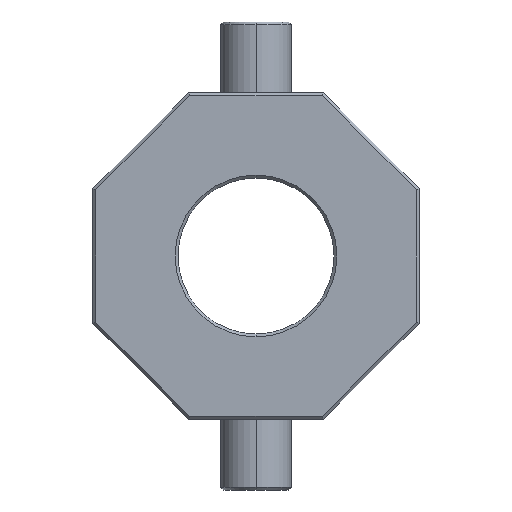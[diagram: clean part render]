
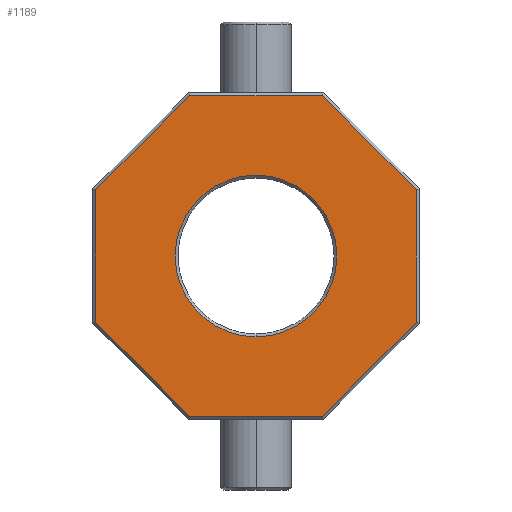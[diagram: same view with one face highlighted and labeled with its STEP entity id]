
A CAD part, left-side view. The second image highlights one B-rep face of the part: STEP entity #1189.
In plain terms, the highlighted planar face has unit normal (-1, 0, 0).
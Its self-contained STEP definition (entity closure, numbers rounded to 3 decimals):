
#42 = LINE ( 'NONE', #1803, #1285 ) ;
#73 = EDGE_CURVE ( 'NONE', #1932, #1742, #307, .T. ) ;
#102 = ORIENTED_EDGE ( 'NONE', *, *, #73, .T. ) ;
#125 = DIRECTION ( 'NONE',  ( 0., 0., -1. ) ) ;
#140 = DIRECTION ( 'NONE',  ( 1., 0., 0. ) ) ;
#146 = LINE ( 'NONE', #1575, #1236 ) ;
#167 = CIRCLE ( 'NONE', #263, 28.5 ) ;
#192 = ORIENTED_EDGE ( 'NONE', *, *, #1483, .T. ) ;
#207 = ORIENTED_EDGE ( 'NONE', *, *, #274, .T. ) ;
#244 = LINE ( 'NONE', #1837, #993 ) ;
#263 = AXIS2_PLACEMENT_3D ( 'NONE', #1356, #873, #397 ) ;
#274 = EDGE_CURVE ( 'NONE', #1473, #1137, #1780, .T. ) ;
#275 = VERTEX_POINT ( 'NONE', #1159 ) ;
#279 = DIRECTION ( 'NONE',  ( 0., 0., -1. ) ) ;
#307 = LINE ( 'NONE', #2055, #502 ) ;
#365 = EDGE_CURVE ( 'NONE', #671, #1009, #1335, .T. ) ;
#397 = DIRECTION ( 'NONE',  ( 0., 0., -1. ) ) ;
#399 = CARTESIAN_POINT ( 'NONE',  ( -15., -23.11, 56.793 ) ) ;
#463 = CARTESIAN_POINT ( 'NONE',  ( -15., 0., 0. ) ) ;
#471 = EDGE_CURVE ( 'NONE', #1742, #1473, #1983, .T. ) ;
#502 = VECTOR ( 'NONE', #594, 1000. ) ;
#521 = ORIENTED_EDGE ( 'NONE', *, *, #857, .T. ) ;
#524 = CARTESIAN_POINT ( 'NONE',  ( -15., 23.817, 56.5 ) ) ;
#530 = ORIENTED_EDGE ( 'NONE', *, *, #1395, .T. ) ;
#591 = AXIS2_PLACEMENT_3D ( 'NONE', #463, #140, #125 ) ;
#593 = EDGE_CURVE ( 'NONE', #275, #1958, #146, .T. ) ;
#594 = DIRECTION ( 'NONE',  ( 0., 0., 1. ) ) ;
#671 = VERTEX_POINT ( 'NONE', #822 ) ;
#775 = FACE_BOUND ( 'NONE', #1117, .T. ) ;
#795 = DIRECTION ( 'NONE',  ( 0., 1., 0. ) ) ;
#811 = ORIENTED_EDGE ( 'NONE', *, *, #1700, .T. ) ;
#822 = CARTESIAN_POINT ( 'NONE',  ( -15., 0., 28.5 ) ) ;
#850 = CARTESIAN_POINT ( 'NONE',  ( -15., 23.403, -56.5 ) ) ;
#851 = DIRECTION ( 'NONE',  ( 1., 0., 0. ) ) ;
#857 = EDGE_CURVE ( 'NONE', #1009, #671, #167, .T. ) ;
#869 = VERTEX_POINT ( 'NONE', #850 ) ;
#873 = DIRECTION ( 'NONE',  ( 1., 0., 0. ) ) ;
#885 = DIRECTION ( 'NONE',  ( 0., 0., -1. ) ) ;
#920 = FACE_OUTER_BOUND ( 'NONE', #1119, .T. ) ;
#925 = CARTESIAN_POINT ( 'NONE',  ( -15., -23.403, 56.5 ) ) ;
#934 = CARTESIAN_POINT ( 'NONE',  ( -15., -56.793, -23.11 ) ) ;
#993 = VECTOR ( 'NONE', #1354, 1000. ) ;
#1009 = VERTEX_POINT ( 'NONE', #1025 ) ;
#1025 = CARTESIAN_POINT ( 'NONE',  ( -15., 0., -28.5 ) ) ;
#1030 = VECTOR ( 'NONE', #1386, 1000. ) ;
#1069 = LINE ( 'NONE', #1208, #1030 ) ;
#1096 = CARTESIAN_POINT ( 'NONE',  ( -15., -23.403, -56.5 ) ) ;
#1097 = ORIENTED_EDGE ( 'NONE', *, *, #2000, .T. ) ;
#1116 = DIRECTION ( 'NONE',  ( 0., -0.707, 0.707 ) ) ;
#1117 = EDGE_LOOP ( 'NONE', ( #1845, #521 ) ) ;
#1119 = EDGE_LOOP ( 'NONE', ( #1499, #811, #192, #1097, #102, #2050, #207, #530 ) ) ;
#1137 = VERTEX_POINT ( 'NONE', #2024 ) ;
#1147 = CARTESIAN_POINT ( 'NONE',  ( -15., 56.5, -23.403 ) ) ;
#1159 = CARTESIAN_POINT ( 'NONE',  ( -15., 56.5, 23.403 ) ) ;
#1189 = ADVANCED_FACE ( 'NONE', ( #920, #775 ), #1888, .F. ) ;
#1208 = CARTESIAN_POINT ( 'NONE',  ( -15., -23.817, -56.5 ) ) ;
#1236 = VECTOR ( 'NONE', #279, 1000. ) ;
#1251 = VECTOR ( 'NONE', #1116, 1000. ) ;
#1285 = VECTOR ( 'NONE', #1506, 1000. ) ;
#1305 = VECTOR ( 'NONE', #1807, 1000. ) ;
#1335 = CIRCLE ( 'NONE', #1866, 28.5 ) ;
#1354 = DIRECTION ( 'NONE',  ( 0., 0.707, -0.707 ) ) ;
#1356 = CARTESIAN_POINT ( 'NONE',  ( -15., 0., 0. ) ) ;
#1386 = DIRECTION ( 'NONE',  ( 0., -1., 0. ) ) ;
#1395 = EDGE_CURVE ( 'NONE', #1137, #275, #244, .T. ) ;
#1473 = VERTEX_POINT ( 'NONE', #925 ) ;
#1483 = EDGE_CURVE ( 'NONE', #869, #1878, #1069, .T. ) ;
#1494 = CARTESIAN_POINT ( 'NONE',  ( -15., -56.5, 23.403 ) ) ;
#1497 = VECTOR ( 'NONE', #795, 1000. ) ;
#1499 = ORIENTED_EDGE ( 'NONE', *, *, #593, .T. ) ;
#1503 = CARTESIAN_POINT ( 'NONE',  ( -15., 0., 0. ) ) ;
#1506 = DIRECTION ( 'NONE',  ( 0., -0.707, -0.707 ) ) ;
#1575 = CARTESIAN_POINT ( 'NONE',  ( -15., 56.5, -23.817 ) ) ;
#1700 = EDGE_CURVE ( 'NONE', #1958, #869, #42, .T. ) ;
#1706 = CARTESIAN_POINT ( 'NONE',  ( -15., -56.5, -23.403 ) ) ;
#1742 = VERTEX_POINT ( 'NONE', #1494 ) ;
#1780 = LINE ( 'NONE', #524, #1497 ) ;
#1803 = CARTESIAN_POINT ( 'NONE',  ( -15., 23.11, -56.793 ) ) ;
#1807 = DIRECTION ( 'NONE',  ( 0., 0.707, 0.707 ) ) ;
#1837 = CARTESIAN_POINT ( 'NONE',  ( -15., 56.793, 23.11 ) ) ;
#1845 = ORIENTED_EDGE ( 'NONE', *, *, #365, .T. ) ;
#1866 = AXIS2_PLACEMENT_3D ( 'NONE', #1503, #851, #885 ) ;
#1878 = VERTEX_POINT ( 'NONE', #1096 ) ;
#1888 = PLANE ( 'NONE',  #591 ) ;
#1932 = VERTEX_POINT ( 'NONE', #1706 ) ;
#1958 = VERTEX_POINT ( 'NONE', #1147 ) ;
#1983 = LINE ( 'NONE', #399, #1305 ) ;
#2000 = EDGE_CURVE ( 'NONE', #1878, #1932, #2056, .T. ) ;
#2024 = CARTESIAN_POINT ( 'NONE',  ( -15., 23.403, 56.5 ) ) ;
#2050 = ORIENTED_EDGE ( 'NONE', *, *, #471, .T. ) ;
#2055 = CARTESIAN_POINT ( 'NONE',  ( -15., -56.5, 23.817 ) ) ;
#2056 = LINE ( 'NONE', #934, #1251 ) ;
